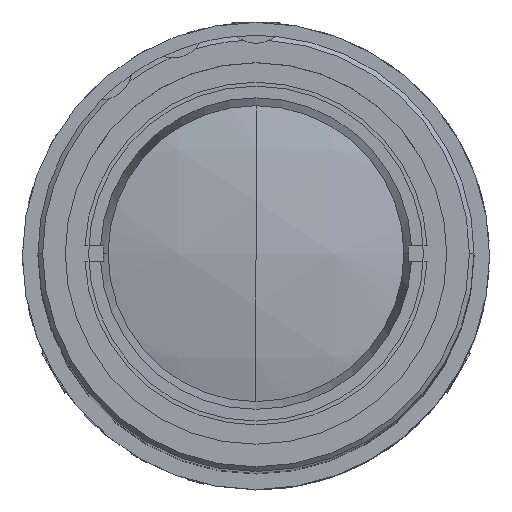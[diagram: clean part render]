
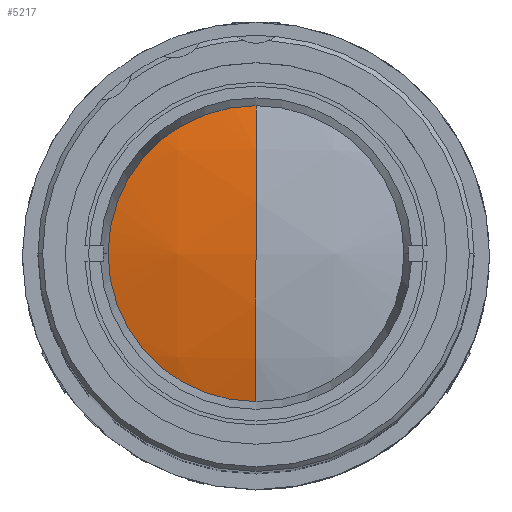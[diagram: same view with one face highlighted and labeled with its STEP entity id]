
A CAD part, top view. The second image highlights one B-rep face of the part: STEP entity #5217.
In plain terms, the highlighted spherical face has radius 39.6 mm.
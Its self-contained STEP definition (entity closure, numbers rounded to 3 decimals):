
#490 = CIRCLE ( 'NONE', #1535, 39.6 ) ;
#807 = EDGE_CURVE ( 'NONE', #11461, #11747, #8101, .T. ) ;
#1535 = AXIS2_PLACEMENT_3D ( 'NONE', #5789, #7864, #4844 ) ;
#2346 = CARTESIAN_POINT ( 'NONE',  ( 3.457, 0.691, 105.807 ) ) ;
#3000 = CIRCLE ( 'NONE', #6254, 10. ) ;
#3178 = CARTESIAN_POINT ( 'NONE',  ( 3.457, 10.691, 105.807 ) ) ;
#3312 = FACE_OUTER_BOUND ( 'NONE', #8459, .T. ) ;
#3381 = DIRECTION ( 'NONE',  ( 0., 0., 1. ) ) ;
#3506 = CARTESIAN_POINT ( 'NONE',  ( 3.457, 0.691, 107.09 ) ) ;
#3581 = DIRECTION ( 'NONE',  ( -1., 0., 0. ) ) ;
#4844 = DIRECTION ( 'NONE',  ( 0., -1., 0. ) ) ;
#5217 = ADVANCED_FACE ( 'NONE', ( #3312 ), #11668, .T. ) ;
#5302 = AXIS2_PLACEMENT_3D ( 'NONE', #10230, #3581, #10592 ) ;
#5658 = CARTESIAN_POINT ( 'NONE',  ( 3.457, -9.309, 105.807 ) ) ;
#5789 = CARTESIAN_POINT ( 'NONE',  ( 3.457, 0.691, 67.49 ) ) ;
#6254 = AXIS2_PLACEMENT_3D ( 'NONE', #2346, #3381, #6344 ) ;
#6344 = DIRECTION ( 'NONE',  ( 0., -1., 0. ) ) ;
#7864 = DIRECTION ( 'NONE',  ( -1., 0., 0. ) ) ;
#8101 = CIRCLE ( 'NONE', #9266, 39.6 ) ;
#8105 = CARTESIAN_POINT ( 'NONE',  ( 3.457, 0.691, 67.49 ) ) ;
#8130 = VERTEX_POINT ( 'NONE', #5658 ) ;
#8459 = EDGE_LOOP ( 'NONE', ( #11019, #9930, #10788 ) ) ;
#9266 = AXIS2_PLACEMENT_3D ( 'NONE', #8105, #10129, #12172 ) ;
#9519 = EDGE_CURVE ( 'NONE', #11461, #8130, #3000, .T. ) ;
#9764 = EDGE_CURVE ( 'NONE', #8130, #11747, #490, .T. ) ;
#9930 = ORIENTED_EDGE ( 'NONE', *, *, #9764, .T. ) ;
#10129 = DIRECTION ( 'NONE',  ( 1., 0., 0. ) ) ;
#10230 = CARTESIAN_POINT ( 'NONE',  ( 3.457, 0.691, 67.49 ) ) ;
#10592 = DIRECTION ( 'NONE',  ( 0., 1., 0. ) ) ;
#10788 = ORIENTED_EDGE ( 'NONE', *, *, #807, .F. ) ;
#11019 = ORIENTED_EDGE ( 'NONE', *, *, #9519, .T. ) ;
#11461 = VERTEX_POINT ( 'NONE', #3178 ) ;
#11668 = SPHERICAL_SURFACE ( 'NONE', #5302, 39.6 ) ;
#11747 = VERTEX_POINT ( 'NONE', #3506 ) ;
#12172 = DIRECTION ( 'NONE',  ( 0., 1., 0. ) ) ;
